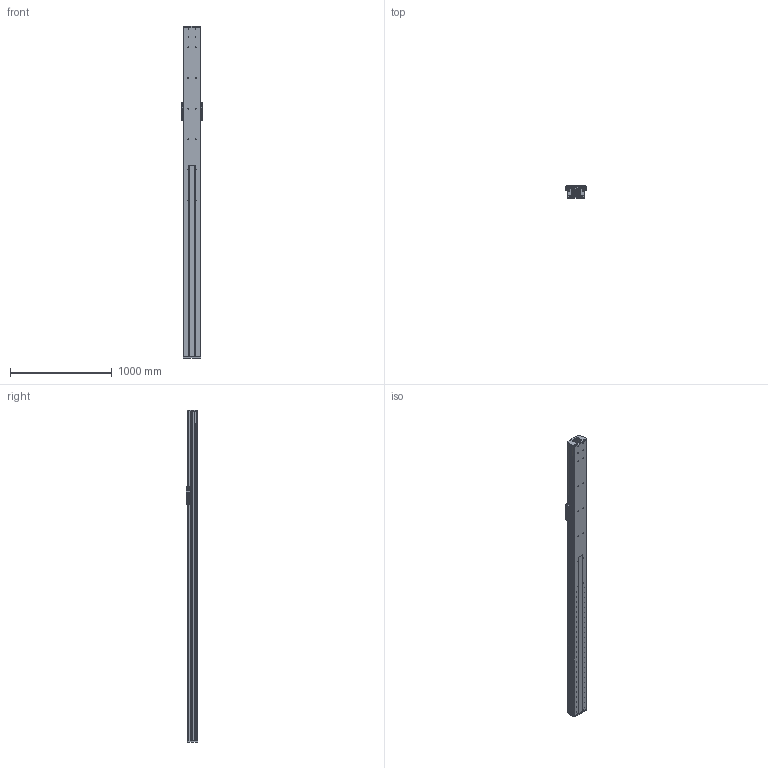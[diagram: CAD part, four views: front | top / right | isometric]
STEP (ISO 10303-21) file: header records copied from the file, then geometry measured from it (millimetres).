
FILE_DESCRIPTION (( 'STEP AP203' ), '1' );
FILE_NAME ('CF175-2-P2900.STEP', '2016-02-23T07:58:24', ( 'Sky123.Org' ), ( 'Sky123.Org' ), 'SwSTEP 2.0', 'SolidWorks 2015', '' );
FILE_SCHEMA (( 'CONFIG_CONTROL_DESIGN' ));
Length unit declared in the file: millimetre
Products named in the file (13): Y1-CF175-2-P1200-1547臏倰第; Y1-HGR20-1500絳寢; CF-HGH20CA賑輸; CF175-2賑雄啣; SFU2505-4; 175-2梓袧嘐隅釱; X1-SFS2525-1185; 175-2侜督80萇儂釱; 175-2耜啣; CF175-2-P2900; 175-2盓傅釱; CF175-2蹟譫釱; Y1-CF175-2-P1200-1547裔啣
Assembly tree (16 placements, depth 2):
  CF175-2-P2900
    CF-HGH20CA賑輸  x4
    SFU2505-4
    X1-SFS2525-1185
    175-2耜啣
    175-2盓傅釱
    CF175-2蹟譫釱
    Y1-CF175-2-P1200-1547裔啣
    Y1-CF175-2-P1200-1547臏倰第
    Y1-HGR20-1500絳寢  x2
    CF175-2賑雄啣
    175-2梓袧嘐隅釱
    175-2侜督80萇儂釱
Bounding box: 200 x 116.8 x 3255 mm (x, y, z)
Volume: 20565364.9 mm3; surface area: 5164235.9 mm2
Topology: 20 solids, 20 shells, 1575 faces, 4137 edges, 2740 vertices
Faces by surface type: cylinder 857, plane 694, cone 20, bspline 4
Entity records: 46222 total; most frequent: CARTESIAN_POINT 11888, DIRECTION 7184, ORIENTED_EDGE 6612, EDGE_CURVE 3306, AXIS2_PLACEMENT_3D 2725, VERTEX_POINT 2188, VECTOR 1734, LINE 1734
